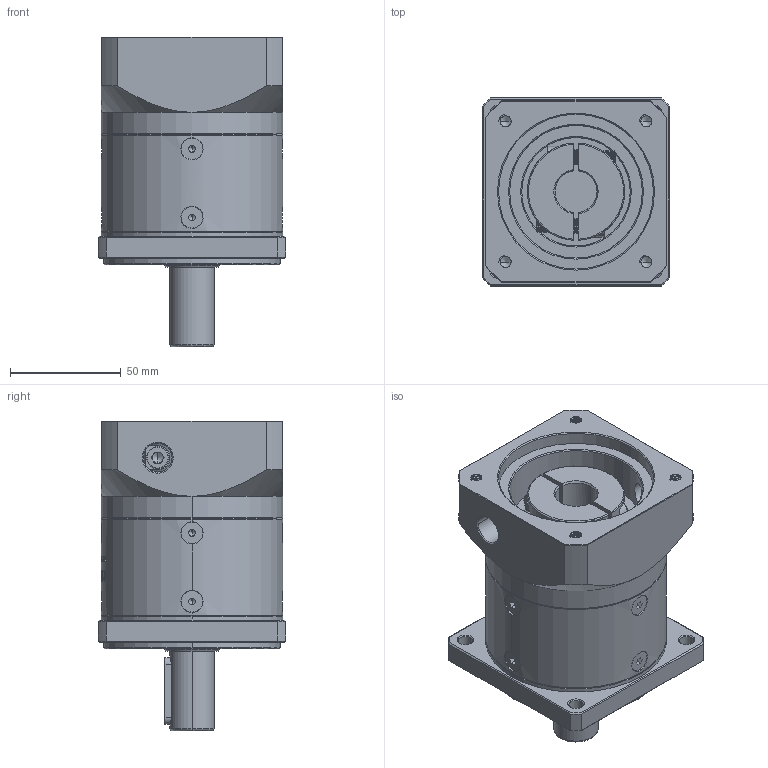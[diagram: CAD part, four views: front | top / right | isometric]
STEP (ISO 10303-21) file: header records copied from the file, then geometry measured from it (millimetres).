
FILE_DESCRIPTION (( 'STEP AP214' ), '1' );
FILE_NAME ('ZF80-D20-L1-19-70-90-M6.step', '2022-05-08T09:14:29', ( '' ), ( 'Microsoft' ), 'SwSTEP 2.0', 'SolidWorks 2016', '' );
FILE_SCHEMA (( 'AUTOMOTIVE_DESIGN' ));
Length unit declared in the file: millimetre
Products named in the file (1): ZF80-D20-L1-19-70-90-M6
Bounding box: 85 x 85 x 140 mm (x, y, z)
Volume: 531510.1 mm3; surface area: 86484 mm2
Topology: 13 solids, 13 shells, 1973 faces, 5113 edges, 3233 vertices
Faces by surface type: plane 891, cylinder 408, cone 337, bspline 320, torus 17
Entity records: 107620 total; most frequent: CARTESIAN_POINT 41332, ORIENTED_EDGE 10166, DIRECTION 8009, EDGE_CURVE 5083, VERTEX_POINT 3233, LINE 2753, VECTOR 2753, AXIS2_PLACEMENT_3D 2628
